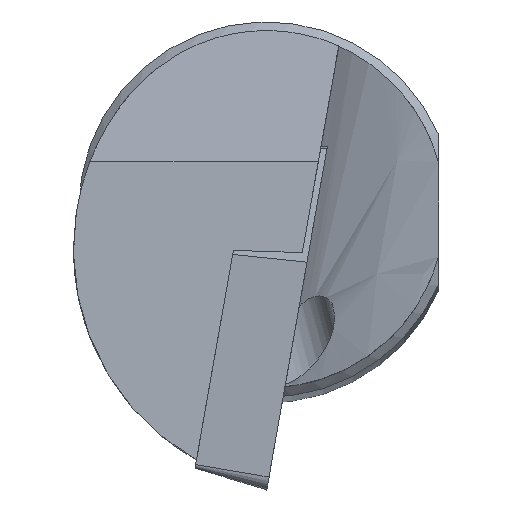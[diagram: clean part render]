
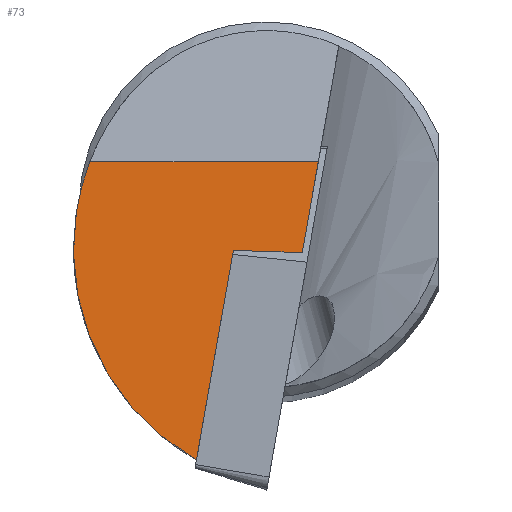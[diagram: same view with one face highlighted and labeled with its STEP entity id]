
A CAD part, top view. The second image highlights one B-rep face of the part: STEP entity #73.
In plain terms, the highlighted planar face has unit normal (0, 0.053, 0.999).
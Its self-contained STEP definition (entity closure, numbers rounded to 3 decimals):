
#73=ADVANCED_FACE('',(#120),#102,.F.);
#102=PLANE('',#557);
#120=FACE_OUTER_BOUND('',#145,.T.);
#145=EDGE_LOOP('',(#214,#215,#216,#217,#218));
#179=ELLIPSE('',#556,7.745,7.734);
#214=ORIENTED_EDGE('',*,*,#411,.F.);
#215=ORIENTED_EDGE('',*,*,#404,.F.);
#216=ORIENTED_EDGE('',*,*,#412,.T.);
#217=ORIENTED_EDGE('',*,*,#413,.F.);
#218=ORIENTED_EDGE('',*,*,#414,.T.);
#355=VERTEX_POINT('',#758);
#356=VERTEX_POINT('',#760);
#360=VERTEX_POINT('',#774);
#362=VERTEX_POINT('',#783);
#363=VERTEX_POINT('',#785);
#404=EDGE_CURVE('',#355,#356,#476,.T.);
#411=EDGE_CURVE('',#356,#362,#480,.T.);
#412=EDGE_CURVE('',#355,#363,#481,.T.);
#413=EDGE_CURVE('',#360,#363,#179,.T.);
#414=EDGE_CURVE('',#360,#362,#482,.T.);
#476=LINE('',#759,#515);
#480=LINE('',#782,#519);
#481=LINE('',#784,#520);
#482=LINE('',#787,#521);
#515=VECTOR('',#612,1.);
#519=VECTOR('',#622,1.);
#520=VECTOR('',#623,1.);
#521=VECTOR('',#626,1.);
#556=AXIS2_PLACEMENT_3D('',#786,#624,#625);
#557=AXIS2_PLACEMENT_3D('',#788,#627,#628);
#612=DIRECTION('',(-0.173,-0.983,0.052));
#622=DIRECTION('',(-0.999,0.032,-0.002));
#623=DIRECTION('',(-1.,0.,0.));
#624=DIRECTION('',(0.,-0.053,-0.999));
#625=DIRECTION('',(0.,-0.999,0.053));
#626=DIRECTION('',(0.173,0.983,-0.052));
#627=DIRECTION('',(0.,-0.053,-0.999));
#628=DIRECTION('',(0.,0.999,-0.053));
#758=CARTESIAN_POINT('',(1.656,1.5,-0.605));
#759=CARTESIAN_POINT('',(0.016,-7.801,-0.11));
#760=CARTESIAN_POINT('',(1.143,-1.407,-0.45));
#774=CARTESIAN_POINT('',(-2.24,-8.038,-0.097));
#782=CARTESIAN_POINT('',(1.098,-1.406,-0.45));
#783=CARTESIAN_POINT('',(-1.058,-1.337,-0.454));
#784=CARTESIAN_POINT('',(-8.405,1.5,-0.605));
#785=CARTESIAN_POINT('',(-5.646,1.5,-0.605));
#786=CARTESIAN_POINT('',(1.563,-1.303,-0.455));
#787=CARTESIAN_POINT('',(1.392,12.558,-1.193));
#788=CARTESIAN_POINT('',(-8.405,14.28,-1.285));
